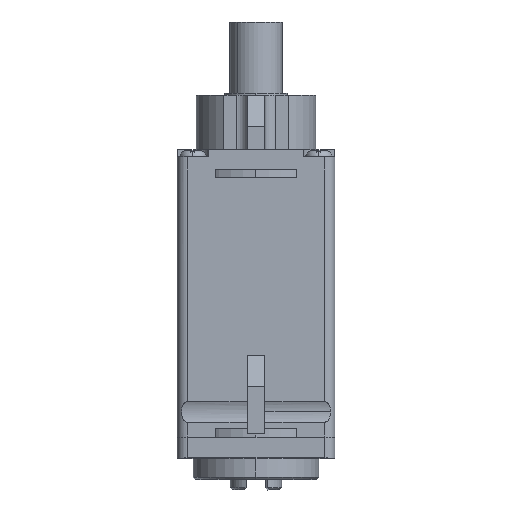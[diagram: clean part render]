
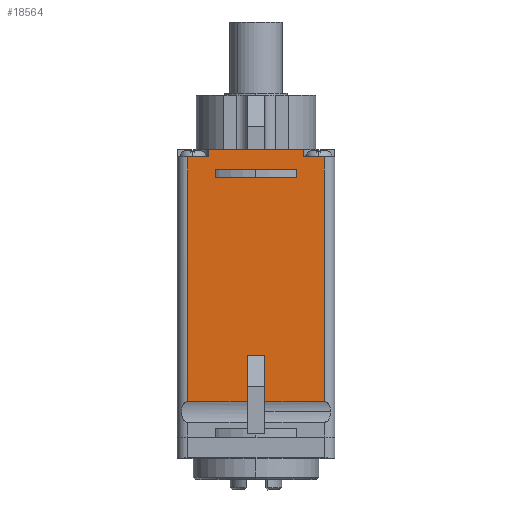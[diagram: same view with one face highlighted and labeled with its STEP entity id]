
A CAD part, top view. The second image highlights one B-rep face of the part: STEP entity #18564.
In plain terms, the highlighted planar face has unit normal (0, 0, 1) as drawn and (0, 1, 0) by its records, which use the part's own axes.
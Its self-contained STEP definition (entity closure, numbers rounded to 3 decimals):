
#437 = EDGE_CURVE ( 'NONE', #7964, #6916, #8913, .T. ) ;
#489 = CARTESIAN_POINT ( 'NONE',  ( -6.5, 22.25, -28.7 ) ) ;
#628 = CARTESIAN_POINT ( 'NONE',  ( -4.5, 22.25, -28.7 ) ) ;
#660 = VECTOR ( 'NONE', #3572, 1000. ) ;
#1050 = VECTOR ( 'NONE', #18170, 1000. ) ;
#1085 = ORIENTED_EDGE ( 'NONE', *, *, #13106, .F. ) ;
#1096 = VECTOR ( 'NONE', #18720, 1000. ) ;
#1103 = ORIENTED_EDGE ( 'NONE', *, *, #8471, .T. ) ;
#1284 = LINE ( 'NONE', #17058, #16895 ) ;
#1446 = ORIENTED_EDGE ( 'NONE', *, *, #3234, .F. ) ;
#1457 = VERTEX_POINT ( 'NONE', #1470 ) ;
#1470 = CARTESIAN_POINT ( 'NONE',  ( 4.5, 22.25, -29.4 ) ) ;
#1540 = CARTESIAN_POINT ( 'NONE',  ( -3.9, 22.25, -27.55 ) ) ;
#1554 = DIRECTION ( 'NONE',  ( 0., 0., -1. ) ) ;
#1584 = VECTOR ( 'NONE', #6057, 1000. ) ;
#1793 = VECTOR ( 'NONE', #14713, 1000. ) ;
#1877 = EDGE_CURVE ( 'NONE', #19564, #18414, #10930, .T. ) ;
#1949 = ORIENTED_EDGE ( 'NONE', *, *, #10643, .F. ) ;
#2272 = ORIENTED_EDGE ( 'NONE', *, *, #11316, .T. ) ;
#2665 = CARTESIAN_POINT ( 'NONE',  ( -7.5, 22.25, -27.55 ) ) ;
#3118 = DIRECTION ( 'NONE',  ( 1., 0., 0. ) ) ;
#3137 = DIRECTION ( 'NONE',  ( 0., 0., 1. ) ) ;
#3234 = EDGE_CURVE ( 'NONE', #7857, #4536, #6092, .T. ) ;
#3287 = ORIENTED_EDGE ( 'NONE', *, *, #16140, .F. ) ;
#3363 = ORIENTED_EDGE ( 'NONE', *, *, #19503, .T. ) ;
#3572 = DIRECTION ( 'NONE',  ( 1., 0., 0. ) ) ;
#3579 = CARTESIAN_POINT ( 'NONE',  ( -7.5, 22.25, -29.4 ) ) ;
#3694 = ORIENTED_EDGE ( 'NONE', *, *, #7267, .T. ) ;
#3734 = EDGE_CURVE ( 'NONE', #10459, #3884, #16084, .T. ) ;
#3884 = VERTEX_POINT ( 'NONE', #7215 ) ;
#4503 = DIRECTION ( 'NONE',  ( 0., 0., -1. ) ) ;
#4536 = VERTEX_POINT ( 'NONE', #17490 ) ;
#4592 = DIRECTION ( 'NONE',  ( -1., 0., 0. ) ) ;
#4703 = CARTESIAN_POINT ( 'NONE',  ( 6.5, 22.25, -7.4 ) ) ;
#4815 = CARTESIAN_POINT ( 'NONE',  ( -4.5, 22.25, -28.7 ) ) ;
#5018 = LINE ( 'NONE', #12828, #11386 ) ;
#5070 = EDGE_CURVE ( 'NONE', #20541, #6985, #6910, .T. ) ;
#5161 = ORIENTED_EDGE ( 'NONE', *, *, #8596, .T. ) ;
#5467 = VERTEX_POINT ( 'NONE', #11843 ) ;
#5498 = CARTESIAN_POINT ( 'NONE',  ( 6.5, 22.25, -5.38 ) ) ;
#5713 = ORIENTED_EDGE ( 'NONE', *, *, #3734, .F. ) ;
#5827 = CARTESIAN_POINT ( 'NONE',  ( 0., 22.25, -26.75 ) ) ;
#5919 = ORIENTED_EDGE ( 'NONE', *, *, #5070, .F. ) ;
#6057 = DIRECTION ( 'NONE',  ( 0., 0., 1. ) ) ;
#6092 = LINE ( 'NONE', #11166, #15227 ) ;
#6157 = CARTESIAN_POINT ( 'NONE',  ( 0.85, 22.25, -9.8 ) ) ;
#6418 = EDGE_CURVE ( 'NONE', #10945, #6985, #15971, .T. ) ;
#6583 = VECTOR ( 'NONE', #4503, 1000. ) ;
#6725 = CARTESIAN_POINT ( 'NONE',  ( -10.85, 22.25, -5.38 ) ) ;
#6795 = CARTESIAN_POINT ( 'NONE',  ( -0.85, 22.25, -9.8 ) ) ;
#6910 = LINE ( 'NONE', #7111, #1050 ) ;
#6916 = VERTEX_POINT ( 'NONE', #11841 ) ;
#6985 = VERTEX_POINT ( 'NONE', #20535 ) ;
#7111 = CARTESIAN_POINT ( 'NONE',  ( 4.5, 22.25, -28.7 ) ) ;
#7215 = CARTESIAN_POINT ( 'NONE',  ( -0.85, 22.25, -5.38 ) ) ;
#7267 = EDGE_CURVE ( 'NONE', #20541, #1457, #20099, .T. ) ;
#7695 = DIRECTION ( 'NONE',  ( 0., 0., 1. ) ) ;
#7778 = EDGE_CURVE ( 'NONE', #19564, #10459, #9222, .T. ) ;
#7857 = VERTEX_POINT ( 'NONE', #1540 ) ;
#7964 = VERTEX_POINT ( 'NONE', #489 ) ;
#7979 = CARTESIAN_POINT ( 'NONE',  ( -7.5, 22.25, -7.4 ) ) ;
#8471 = EDGE_CURVE ( 'NONE', #5467, #13982, #10026, .T. ) ;
#8550 = DIRECTION ( 'NONE',  ( 0., 0., 1. ) ) ;
#8590 = CARTESIAN_POINT ( 'NONE',  ( -4.5, 22.25, -29.4 ) ) ;
#8596 = EDGE_CURVE ( 'NONE', #7964, #18785, #1284, .T. ) ;
#8913 = LINE ( 'NONE', #628, #9568 ) ;
#9222 = LINE ( 'NONE', #6157, #9802 ) ;
#9260 = VECTOR ( 'NONE', #9314, 1000. ) ;
#9314 = DIRECTION ( 'NONE',  ( 1., 0., 0. ) ) ;
#9568 = VECTOR ( 'NONE', #15238, 1000. ) ;
#9802 = VECTOR ( 'NONE', #4592, 1000. ) ;
#10026 = LINE ( 'NONE', #20031, #13562 ) ;
#10459 = VERTEX_POINT ( 'NONE', #14604 ) ;
#10643 = EDGE_CURVE ( 'NONE', #4536, #13982, #13837, .T. ) ;
#10930 = LINE ( 'NONE', #15549, #1584 ) ;
#10945 = VERTEX_POINT ( 'NONE', #5498 ) ;
#11069 = CARTESIAN_POINT ( 'NONE',  ( 3.9, 22.25, -26.75 ) ) ;
#11152 = DIRECTION ( 'NONE',  ( 0., -1., 0. ) ) ;
#11166 = CARTESIAN_POINT ( 'NONE',  ( -3.9, 22.25, -27.55 ) ) ;
#11307 = EDGE_LOOP ( 'NONE', ( #5161, #3363, #5713, #12822, #12244, #20255, #17534, #5919, #3694, #2272, #1085, #13481 ) ) ;
#11316 = EDGE_CURVE ( 'NONE', #1457, #11602, #18004, .T. ) ;
#11386 = VECTOR ( 'NONE', #11452, 1000. ) ;
#11452 = DIRECTION ( 'NONE',  ( -1., 0., 0. ) ) ;
#11602 = VERTEX_POINT ( 'NONE', #8590 ) ;
#11802 = LINE ( 'NONE', #6725, #660 ) ;
#11841 = CARTESIAN_POINT ( 'NONE',  ( -4.5, 22.25, -28.7 ) ) ;
#11843 = CARTESIAN_POINT ( 'NONE',  ( 3.9, 22.25, -27.55 ) ) ;
#12244 = ORIENTED_EDGE ( 'NONE', *, *, #1877, .T. ) ;
#12630 = FACE_BOUND ( 'NONE', #18689, .T. ) ;
#12822 = ORIENTED_EDGE ( 'NONE', *, *, #7778, .F. ) ;
#12828 = CARTESIAN_POINT ( 'NONE',  ( 7.5, 22.25, -5.38 ) ) ;
#13106 = EDGE_CURVE ( 'NONE', #6916, #11602, #15666, .T. ) ;
#13406 = AXIS2_PLACEMENT_3D ( 'NONE', #7979, #11152, #3118 ) ;
#13481 = ORIENTED_EDGE ( 'NONE', *, *, #437, .F. ) ;
#13562 = VECTOR ( 'NONE', #8550, 1000. ) ;
#13837 = LINE ( 'NONE', #5827, #9260 ) ;
#13982 = VERTEX_POINT ( 'NONE', #11069 ) ;
#13986 = CARTESIAN_POINT ( 'NONE',  ( 0.85, 22.25, -5.38 ) ) ;
#14271 = LINE ( 'NONE', #2665, #16898 ) ;
#14604 = CARTESIAN_POINT ( 'NONE',  ( -0.85, 22.25, -9.8 ) ) ;
#14645 = EDGE_CURVE ( 'NONE', #10945, #18414, #5018, .T. ) ;
#14713 = DIRECTION ( 'NONE',  ( 0., 0., 1. ) ) ;
#15127 = CARTESIAN_POINT ( 'NONE',  ( -6.5, 22.25, -5.38 ) ) ;
#15227 = VECTOR ( 'NONE', #3137, 1000. ) ;
#15238 = DIRECTION ( 'NONE',  ( 1., 0., 0. ) ) ;
#15258 = CARTESIAN_POINT ( 'NONE',  ( 4.5, 22.25, -28.7 ) ) ;
#15549 = CARTESIAN_POINT ( 'NONE',  ( 0.85, 22.25, -2.8 ) ) ;
#15666 = LINE ( 'NONE', #4815, #6583 ) ;
#15971 = LINE ( 'NONE', #4703, #20190 ) ;
#16039 = CARTESIAN_POINT ( 'NONE',  ( 0.85, 22.25, -9.8 ) ) ;
#16084 = LINE ( 'NONE', #6795, #1793 ) ;
#16094 = PLANE ( 'NONE',  #13406 ) ;
#16140 = EDGE_CURVE ( 'NONE', #5467, #7857, #14271, .T. ) ;
#16895 = VECTOR ( 'NONE', #7695, 1000. ) ;
#16898 = VECTOR ( 'NONE', #17314, 1000. ) ;
#17058 = CARTESIAN_POINT ( 'NONE',  ( -6.5, 22.25, -7.4 ) ) ;
#17314 = DIRECTION ( 'NONE',  ( -1., 0., 0. ) ) ;
#17490 = CARTESIAN_POINT ( 'NONE',  ( -3.9, 22.25, -26.75 ) ) ;
#17534 = ORIENTED_EDGE ( 'NONE', *, *, #6418, .T. ) ;
#18004 = LINE ( 'NONE', #3579, #20378 ) ;
#18170 = DIRECTION ( 'NONE',  ( 1., 0., 0. ) ) ;
#18414 = VERTEX_POINT ( 'NONE', #13986 ) ;
#18564 = ADVANCED_FACE ( 'NONE', ( #12630, #19039 ), #16094, .F. ) ;
#18689 = EDGE_LOOP ( 'NONE', ( #3287, #1103, #1949, #1446 ) ) ;
#18720 = DIRECTION ( 'NONE',  ( 0., 0., -1. ) ) ;
#18785 = VERTEX_POINT ( 'NONE', #15127 ) ;
#19039 = FACE_OUTER_BOUND ( 'NONE', #11307, .T. ) ;
#19503 = EDGE_CURVE ( 'NONE', #18785, #3884, #11802, .T. ) ;
#19564 = VERTEX_POINT ( 'NONE', #16039 ) ;
#19697 = DIRECTION ( 'NONE',  ( -1., 0., 0. ) ) ;
#20031 = CARTESIAN_POINT ( 'NONE',  ( 3.9, 22.25, -27.55 ) ) ;
#20099 = LINE ( 'NONE', #15258, #1096 ) ;
#20190 = VECTOR ( 'NONE', #1554, 1000. ) ;
#20255 = ORIENTED_EDGE ( 'NONE', *, *, #14645, .F. ) ;
#20378 = VECTOR ( 'NONE', #19697, 1000. ) ;
#20464 = CARTESIAN_POINT ( 'NONE',  ( 4.5, 22.25, -28.7 ) ) ;
#20535 = CARTESIAN_POINT ( 'NONE',  ( 6.5, 22.25, -28.7 ) ) ;
#20541 = VERTEX_POINT ( 'NONE', #20464 ) ;
